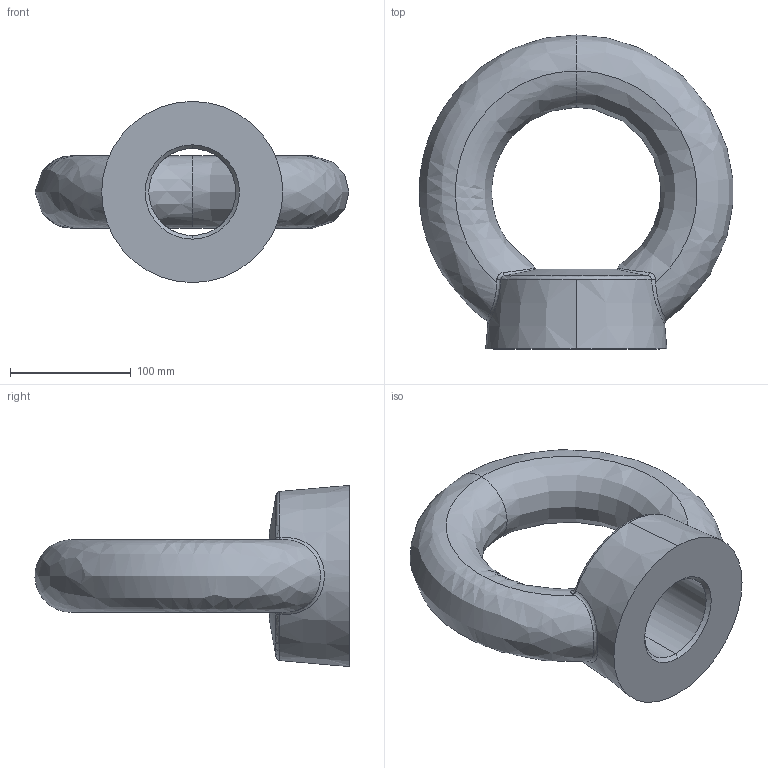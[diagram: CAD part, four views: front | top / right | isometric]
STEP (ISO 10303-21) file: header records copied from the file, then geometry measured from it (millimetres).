
FILE_DESCRIPTION (( 'STEP AP203' ), '1' );
FILE_NAME ('P4041.720-ZP.step', '2023-04-16T08:02:45', ( '' ), ( '' ), 'SwSTEP 2.0', 'SolidWorks 2019', '' );
FILE_SCHEMA (( 'CONFIG_CONTROL_DESIGN' ));
Length unit declared in the file: millimetre
Products named in the file (1): P4041.720-ZP
Bounding box: 259.54 x 259.99 x 150 mm (x, y, z)
Volume: 2168741.4 mm3; surface area: 154844.2 mm2
Topology: 1 solids, 1 shells, 27 faces, 69 edges, 41 vertices
Faces by surface type: bspline 14, cone 7, torus 3, cylinder 2, plane 1
Entity records: 3654 total; most frequent: CARTESIAN_POINT 3028, ORIENTED_EDGE 138, DIRECTION 87, EDGE_CURVE 69, VERTEX_POINT 41, AXIS2_PLACEMENT_3D 40, B_SPLINE_CURVE_WITH_KNOTS 34, EDGE_LOOP 28
